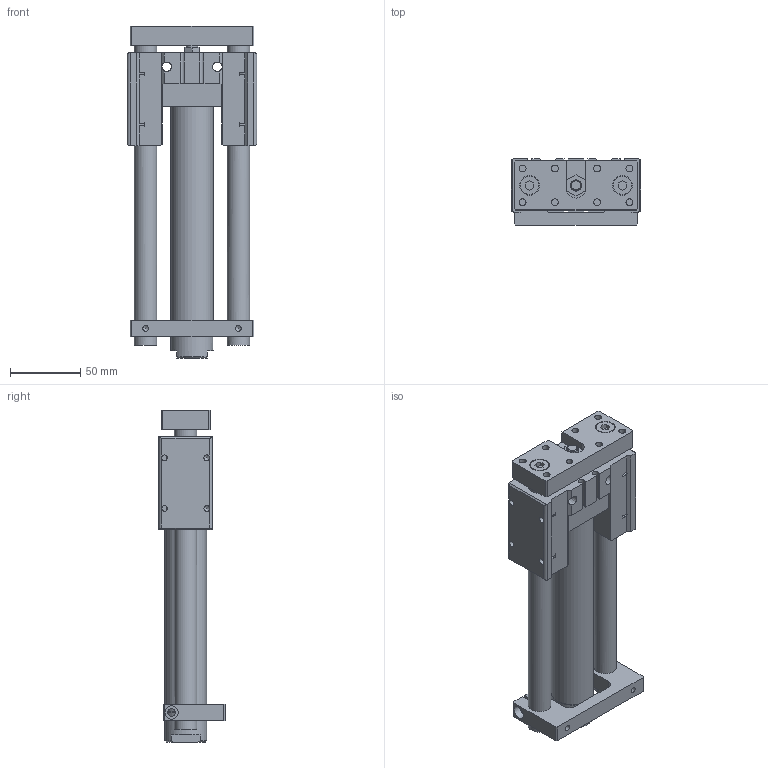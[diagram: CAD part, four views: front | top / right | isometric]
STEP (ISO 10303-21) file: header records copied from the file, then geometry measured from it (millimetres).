
FILE_DESCRIPTION((''),'2;1');
FILE_NAME('I:\3D電子目錄\氣缸\TMB(U)\TMB(U)\TMB(U)25\TMB(U)25x125.stp','2007-10-05T09:31:28',('Administrator'),(''),'Autodesk Inventor 11','Autodesk Inventor 11','');
FILE_SCHEMA(('AUTOMOTIVE_DESIGN { 1 0 10303 214 1 1 1 1 }'));
Length unit declared in the file: millimetre
Products named in the file (1): TMB(U)25
Bounding box: 92 x 47 x 236 mm (x, y, z)
Volume: 406201.8 mm3; surface area: 84156.7 mm2
Topology: 1 solids, 1 shells, 243 faces, 727 edges, 476 vertices
Faces by surface type: plane 149, bspline 49, cylinder 28, cone 17
Full cylindrical faces by diameter (mm): 4.134 x4, 5.5 x1, 8 x2, 9.5 x1, 13 x2, 14 x2, 16 x3, 30 x2
Entity records: 8294 total; most frequent: CARTESIAN_POINT 2323, ORIENTED_EDGE 1234, DIRECTION 1136, EDGE_CURVE 617, VERTEX_POINT 433, VECTOR 408, LINE 408, AXIS2_PLACEMENT_3D 364
